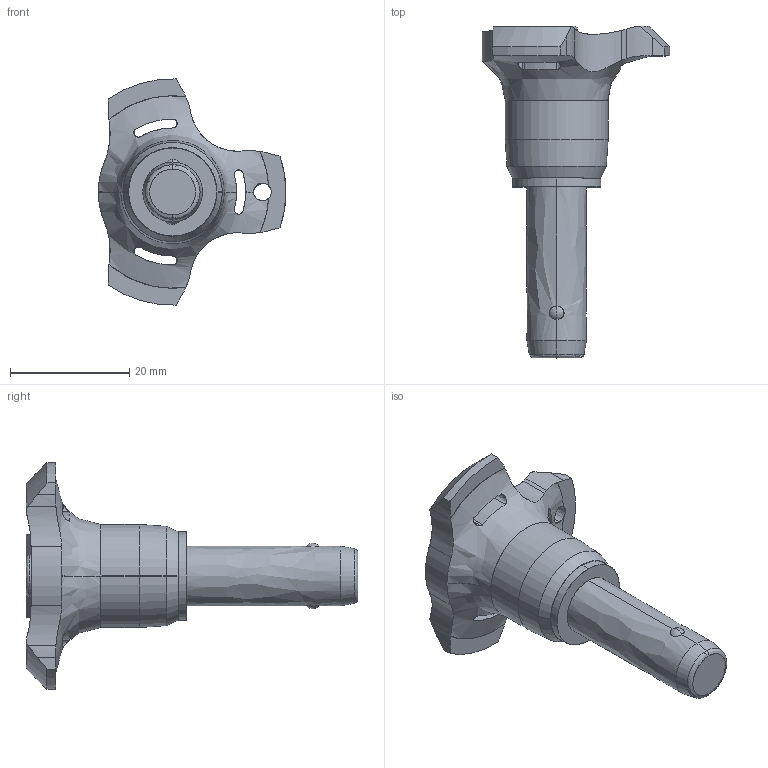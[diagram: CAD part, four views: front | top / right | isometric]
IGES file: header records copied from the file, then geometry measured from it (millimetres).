
Start section: SolidWorks IGES file using analytic representation for surfaces
Global section: file name: C:\Users\ianosborn\Desktop\33140_v2\33140_v2_20241128_IGES\33140.W0066.igs; native system: SolidWorks 2019; preprocessor: SolidWorks 2019; author: IanOsborn; date: 241128.142903; units: millimetre
Bounding box: 31.5 x 55.7 x 37.98 mm (x, y, z)
Surface area: 5380.3 mm2 (no closed solid volume)
Topology: 0 solids, 0 shells, 82 faces, 1328 edges, 1328 vertices
Faces by surface type: revolution 58, bspline 24
